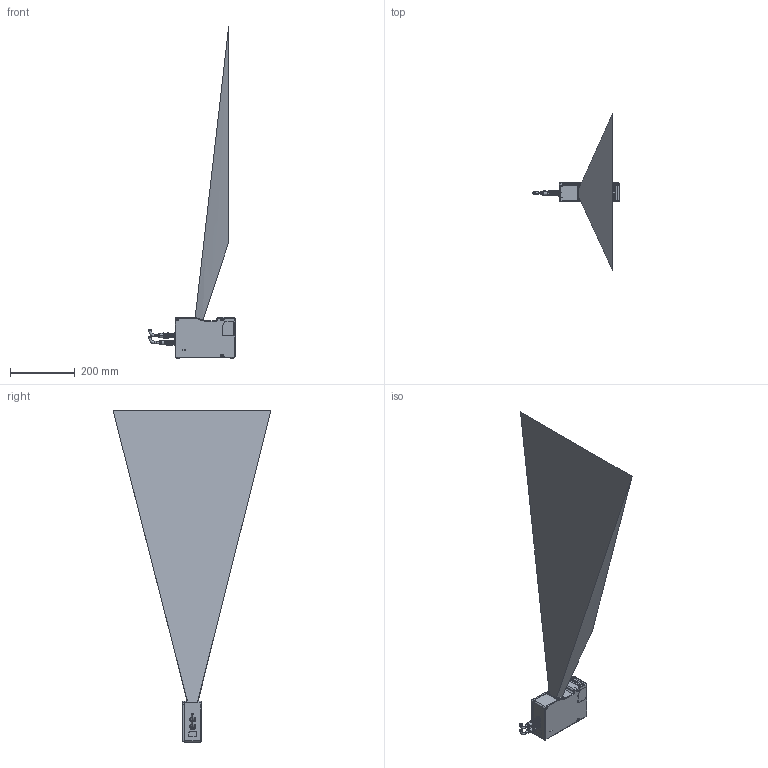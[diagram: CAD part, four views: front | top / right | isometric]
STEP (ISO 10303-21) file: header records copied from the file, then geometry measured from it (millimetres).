
FILE_DESCRIPTION((''),'2;1');
FILE_NAME('PRT0017','2026-05-15T17:21:07',('wangjiayi28'),(''),'CREO PARAMETRIC BY PTC INC, 2020044','CREO PARAMETRIC BY PTC INC, 2020044','');
FILE_SCHEMA(('AUTOMOTIVE_DESIGN { 1 0 10303 214 1 1 1 1 }'));
Products named in the file (1): PRT0017
Bounding box: 266.75 x 488 x 1025.5 mm (x, y, z)
Surface area: 640778.6 mm2
Topology: 2 solids, 36 shells, 1548 faces, 4877 edges, 3293 vertices
Faces by surface type: plane 842, cylinder 425, cone 126, bspline 81, torus 72, extrusion 2
Entity records: 100482 total; most frequent: CARTESIAN_POINT 59279, ORIENTED_EDGE 8396, DIRECTION 7984, EDGE_CURVE 4877, VERTEX_POINT 3293, AXIS2_PLACEMENT_3D 2842, VECTOR 2300, LINE 2298
